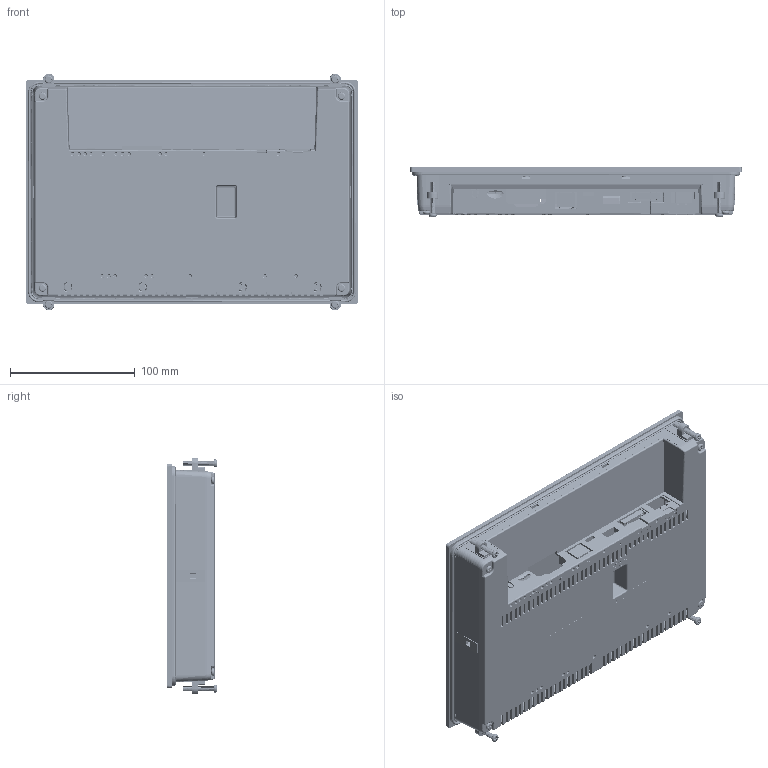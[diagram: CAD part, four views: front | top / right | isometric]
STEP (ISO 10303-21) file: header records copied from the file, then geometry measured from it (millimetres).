
FILE_DESCRIPTION(/* description */ (''),/* implementation_level */ '2;1');
FILE_NAME(/* name */ 'P5101B~1',/* time_stamp */ '2023-05-08T19:29:56+08:00',/* author */ (''),/* organization */ (''),/* preprocessor_version */ 'ST-DEVELOPER v16.5',/* originating_system */ '',/* authorisation */ '');
FILE_SCHEMA (('AUTOMOTIVE_DESIGN'));
Products named in the file (19): Document; P5101B-DOWN-COVER; P7-070-STICKER; P5101B-LCM-SPONGE-B; P5101B-LCM-SPONGE-A; SCREW-F-M3X8; P5101B-WATERPROOF_RING; 圖塊 01; M3X5; M3X20; LOCK_ASM; M4X12; LAGOU-20210411; HMI-150-LED-PCB_ASM; HMI-150-LED-PCB; P5101B-TP; P5070B-LIGHT-GUIDE; P5101B-FACEPLATE; P5101B-COVER-UP
Assembly tree (34 placements, depth 3):
  Document
    P5101B-DOWN-COVER
    P7-070-STICKER
    P5101B-LCM-SPONGE-B  x2
    P5101B-LCM-SPONGE-A  x2
    SCREW-F-M3X8  x8
    P5101B-WATERPROOF_RING
      圖塊 01
    M3X5  x2
    M3X20  x4
    LOCK_ASM  x4
      M4X12
      LAGOU-20210411
    HMI-150-LED-PCB_ASM
      HMI-150-LED-PCB
    P5101B-TP
    P5070B-LIGHT-GUIDE
    P5101B-FACEPLATE
    P5101B-COVER-UP
Bounding box: 266 x 39.77 x 189.79 mm (x, y, z)
Volume: 280879.9 mm3; surface area: 349351.1 mm2
Topology: 37 solids, 38 shells, 5650 faces, 15587 edges, 10063 vertices
Faces by surface type: plane 2851, bspline 2799
Entity records: 174704 total; most frequent: CARTESIAN_POINT 102635, ORIENTED_EDGE 22406, EDGE_CURVE 11211, B_SPLINE_CURVE_WITH_KNOTS 9801, VERTEX_POINT 7283, EDGE_LOOP 4352, ADVANCED_FACE 4025, FACE_OUTER_BOUND 4025
